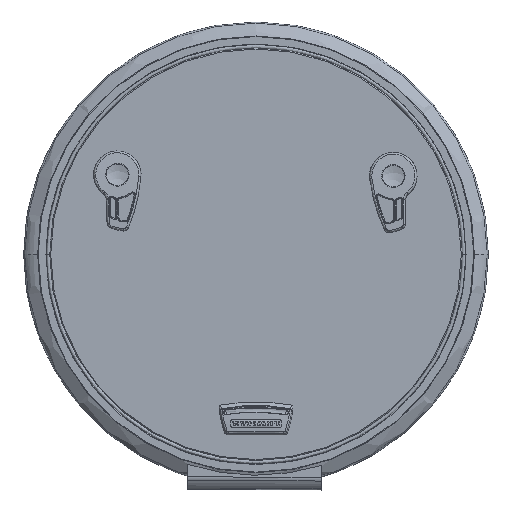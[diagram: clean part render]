
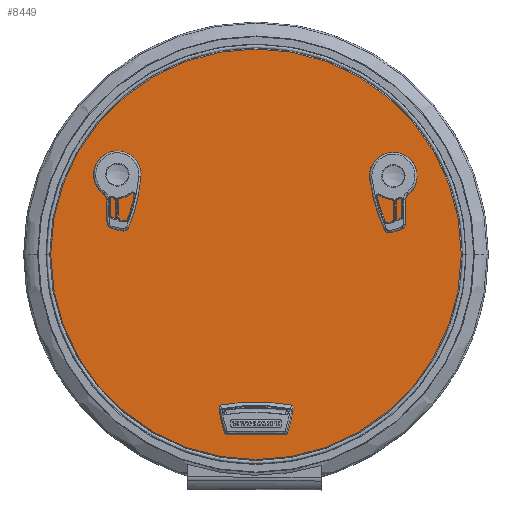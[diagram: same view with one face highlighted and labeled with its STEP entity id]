
A CAD part, top view. The second image highlights one B-rep face of the part: STEP entity #8449.
In plain terms, the highlighted planar face has unit normal (0, 0, 1).
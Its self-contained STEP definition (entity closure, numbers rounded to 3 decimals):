
#7936=CARTESIAN_POINT('',(0.,0.,8.));
#7937=DIRECTION('',(0.,0.,-1.));
#7938=DIRECTION('',(1.,0.,0.));
#7939=AXIS2_PLACEMENT_3D('',#7936,#7937,#7938);
#7941=CARTESIAN_POINT('',(0.,0.,8.));
#7942=DIRECTION('',(0.,0.,-1.));
#7943=DIRECTION('',(-1.,0.,0.));
#7944=AXIS2_PLACEMENT_3D('',#7941,#7942,#7943);
#7946=CARTESIAN_POINT('',(21.55,-177.5,8.));
#7947=DIRECTION('',(0.,0.,1.));
#7948=DIRECTION('',(0.,-1.,0.));
#7949=AXIS2_PLACEMENT_3D('',#7946,#7947,#7948);
#7951=DIRECTION('',(-1.,0.,0.));
#7952=VECTOR('',#7951,43.1);
#7953=CARTESIAN_POINT('',(21.55,-172.,8.));
#7954=LINE('',#7953,#7952);
#7955=CARTESIAN_POINT('',(-21.55,-177.5,8.));
#7956=DIRECTION('',(0.,0.,1.));
#7957=DIRECTION('',(0.,1.,0.));
#7958=AXIS2_PLACEMENT_3D('',#7955,#7956,#7957);
#7960=DIRECTION('',(1.,0.,0.));
#7961=VECTOR('',#7960,43.1);
#7962=CARTESIAN_POINT('',(-21.55,-183.,8.));
#7963=LINE('',#7962,#7961);
#7964=DIRECTION('',(-0.866,0.5,0.));
#7965=VECTOR('',#7964,5.2);
#7966=CARTESIAN_POINT('',(141.395,73.203,8.));
#7967=LINE('',#7966,#7965);
#7968=CARTESIAN_POINT('',(143.895,77.533,8.));
#7969=DIRECTION('',(0.,0.,-1.));
#7970=DIRECTION('',(0.866,-0.5,0.));
#7971=AXIS2_PLACEMENT_3D('',#7968,#7969,#7970);
#7973=DIRECTION('',(-0.5,-0.866,0.));
#7974=VECTOR('',#7973,10.2);
#7975=CARTESIAN_POINT('',(153.325,83.867,8.));
#7976=LINE('',#7975,#7974);
#7977=CARTESIAN_POINT('',(148.995,86.367,8.));
#7978=DIRECTION('',(0.,0.,-1.));
#7979=DIRECTION('',(0.5,0.866,0.));
#7980=AXIS2_PLACEMENT_3D('',#7977,#7978,#7979);
#7982=DIRECTION('',(0.866,-0.5,0.));
#7983=VECTOR('',#7982,5.2);
#7984=CARTESIAN_POINT('',(146.992,93.297,8.));
#7985=LINE('',#7984,#7983);
#7986=CARTESIAN_POINT('',(144.492,88.967,8.));
#7987=DIRECTION('',(0.,0.,-1.));
#7988=DIRECTION('',(-0.866,0.5,0.));
#7989=AXIS2_PLACEMENT_3D('',#7986,#7987,#7988);
#7991=DIRECTION('',(0.5,0.866,0.));
#7992=VECTOR('',#7991,10.2);
#7993=CARTESIAN_POINT('',(135.061,82.633,8.));
#7994=LINE('',#7993,#7992);
#7995=CARTESIAN_POINT('',(139.392,80.133,8.));
#7996=DIRECTION('',(0.,0.,-1.));
#7997=DIRECTION('',(-0.5,-0.866,0.));
#7998=AXIS2_PLACEMENT_3D('',#7995,#7996,#7997);
#8000=CARTESIAN_POINT('',(-143.895,77.533,8.));
#8001=DIRECTION('',(0.,0.,1.));
#8002=DIRECTION('',(-0.866,-0.5,0.));
#8003=AXIS2_PLACEMENT_3D('',#8000,#8001,#8002);
#8005=DIRECTION('',(0.866,0.5,0.));
#8006=VECTOR('',#8005,5.2);
#8007=CARTESIAN_POINT('',(-141.395,73.203,8.));
#8008=LINE('',#8007,#8006);
#8009=CARTESIAN_POINT('',(-139.392,80.133,8.));
#8010=DIRECTION('',(0.,0.,1.));
#8011=DIRECTION('',(0.5,-0.866,0.));
#8012=AXIS2_PLACEMENT_3D('',#8009,#8010,#8011);
#8014=DIRECTION('',(-0.5,0.866,0.));
#8015=VECTOR('',#8014,10.2);
#8016=CARTESIAN_POINT('',(-135.061,82.633,8.));
#8017=LINE('',#8016,#8015);
#8018=CARTESIAN_POINT('',(-144.492,88.967,8.));
#8019=DIRECTION('',(0.,0.,1.));
#8020=DIRECTION('',(0.866,0.5,0.));
#8021=AXIS2_PLACEMENT_3D('',#8018,#8019,#8020);
#8023=DIRECTION('',(-0.866,-0.5,0.));
#8024=VECTOR('',#8023,5.2);
#8025=CARTESIAN_POINT('',(-146.992,93.297,8.));
#8026=LINE('',#8025,#8024);
#8027=CARTESIAN_POINT('',(-148.995,86.367,8.));
#8028=DIRECTION('',(0.,0.,1.));
#8029=DIRECTION('',(-0.5,0.866,0.));
#8030=AXIS2_PLACEMENT_3D('',#8027,#8028,#8029);
#8032=DIRECTION('',(0.5,-0.866,0.));
#8033=VECTOR('',#8032,10.2);
#8034=CARTESIAN_POINT('',(-153.325,83.867,8.));
#8035=LINE('',#8034,#8033);
#8140=CARTESIAN_POINT('',(216.5,0.,8.));
#8141=CARTESIAN_POINT('',(-216.5,0.,8.));
#8142=VERTEX_POINT('',#8140);
#8143=VERTEX_POINT('',#8141);
#8156=CARTESIAN_POINT('',(21.55,-183.,8.));
#8157=CARTESIAN_POINT('',(21.55,-172.,8.));
#8158=VERTEX_POINT('',#8156);
#8159=VERTEX_POINT('',#8157);
#8160=CARTESIAN_POINT('',(-21.55,-172.,8.));
#8161=VERTEX_POINT('',#8160);
#8162=CARTESIAN_POINT('',(-21.55,-183.,8.));
#8163=VERTEX_POINT('',#8162);
#8184=CARTESIAN_POINT('',(141.395,73.203,8.));
#8185=CARTESIAN_POINT('',(136.892,75.803,8.));
#8186=VERTEX_POINT('',#8184);
#8187=VERTEX_POINT('',#8185);
#8188=CARTESIAN_POINT('',(135.061,82.633,8.));
#8189=CARTESIAN_POINT('',(140.161,91.467,8.));
#8190=VERTEX_POINT('',#8188);
#8191=VERTEX_POINT('',#8189);
#8192=CARTESIAN_POINT('',(146.992,93.297,8.));
#8193=CARTESIAN_POINT('',(151.495,90.697,8.));
#8194=VERTEX_POINT('',#8192);
#8195=VERTEX_POINT('',#8193);
#8196=CARTESIAN_POINT('',(153.325,83.867,8.));
#8197=CARTESIAN_POINT('',(148.225,75.033,8.));
#8198=VERTEX_POINT('',#8196);
#8199=VERTEX_POINT('',#8197);
#8216=CARTESIAN_POINT('',(-148.225,75.033,8.));
#8217=CARTESIAN_POINT('',(-141.395,73.203,8.));
#8218=VERTEX_POINT('',#8216);
#8219=VERTEX_POINT('',#8217);
#8220=CARTESIAN_POINT('',(-136.892,75.803,8.));
#8221=VERTEX_POINT('',#8220);
#8222=CARTESIAN_POINT('',(-135.061,82.633,8.));
#8223=VERTEX_POINT('',#8222);
#8224=CARTESIAN_POINT('',(-140.161,91.467,8.));
#8225=VERTEX_POINT('',#8224);
#8226=CARTESIAN_POINT('',(-146.992,93.297,8.));
#8227=VERTEX_POINT('',#8226);
#8228=CARTESIAN_POINT('',(-151.495,90.697,8.));
#8229=VERTEX_POINT('',#8228);
#8230=CARTESIAN_POINT('',(-153.325,83.867,8.));
#8231=VERTEX_POINT('',#8230);
#8393=CARTESIAN_POINT('',(0.,0.,8.));
#8394=DIRECTION('',(0.,0.,1.));
#8395=DIRECTION('',(-1.,0.,0.));
#8396=AXIS2_PLACEMENT_3D('',#8393,#8394,#8395);
#8397=PLANE('',#8396);
#8398=ORIENTED_EDGE('',*,*,#8383,.T.);
#8400=ORIENTED_EDGE('',*,*,#8399,.T.);
#8401=EDGE_LOOP('',(#8398,#8400));
#8402=FACE_OUTER_BOUND('',#8401,.F.);
#8404=ORIENTED_EDGE('',*,*,#8403,.T.);
#8406=ORIENTED_EDGE('',*,*,#8405,.T.);
#8408=ORIENTED_EDGE('',*,*,#8407,.T.);
#8410=ORIENTED_EDGE('',*,*,#8409,.T.);
#8411=EDGE_LOOP('',(#8404,#8406,#8408,#8410));
#8412=FACE_BOUND('',#8411,.F.);
#8414=ORIENTED_EDGE('',*,*,#8413,.F.);
#8416=ORIENTED_EDGE('',*,*,#8415,.F.);
#8418=ORIENTED_EDGE('',*,*,#8417,.F.);
#8420=ORIENTED_EDGE('',*,*,#8419,.F.);
#8422=ORIENTED_EDGE('',*,*,#8421,.F.);
#8424=ORIENTED_EDGE('',*,*,#8423,.F.);
#8426=ORIENTED_EDGE('',*,*,#8425,.F.);
#8428=ORIENTED_EDGE('',*,*,#8427,.F.);
#8429=EDGE_LOOP('',(#8414,#8416,#8418,#8420,#8422,#8424,#8426,#8428));
#8430=FACE_BOUND('',#8429,.F.);
#8432=ORIENTED_EDGE('',*,*,#8431,.T.);
#8434=ORIENTED_EDGE('',*,*,#8433,.T.);
#8436=ORIENTED_EDGE('',*,*,#8435,.T.);
#8438=ORIENTED_EDGE('',*,*,#8437,.T.);
#8440=ORIENTED_EDGE('',*,*,#8439,.T.);
#8442=ORIENTED_EDGE('',*,*,#8441,.T.);
#8444=ORIENTED_EDGE('',*,*,#8443,.T.);
#8446=ORIENTED_EDGE('',*,*,#8445,.T.);
#8447=EDGE_LOOP('',(#8432,#8434,#8436,#8438,#8440,#8442,#8444,#8446));
#8448=FACE_BOUND('',#8447,.F.);
#8449=ADVANCED_FACE('',(#8402,#8412,#8430,#8448),#8397,.T.);
#7940=CIRCLE('',#7939,216.5);
#7945=CIRCLE('',#7944,216.5);
#7950=CIRCLE('',#7949,5.5);
#7959=CIRCLE('',#7958,5.5);
#7972=CIRCLE('',#7971,5.);
#7981=CIRCLE('',#7980,5.);
#7990=CIRCLE('',#7989,5.);
#7999=CIRCLE('',#7998,5.);
#8004=CIRCLE('',#8003,5.);
#8013=CIRCLE('',#8012,5.);
#8022=CIRCLE('',#8021,5.);
#8031=CIRCLE('',#8030,5.);
#8383=EDGE_CURVE('',#8142,#8143,#7940,.T.);
#8399=EDGE_CURVE('',#8143,#8142,#7945,.T.);
#8403=EDGE_CURVE('',#8158,#8159,#7950,.T.);
#8405=EDGE_CURVE('',#8159,#8161,#7954,.T.);
#8407=EDGE_CURVE('',#8161,#8163,#7959,.T.);
#8409=EDGE_CURVE('',#8163,#8158,#7963,.T.);
#8413=EDGE_CURVE('',#8186,#8187,#7967,.T.);
#8415=EDGE_CURVE('',#8199,#8186,#7972,.T.);
#8417=EDGE_CURVE('',#8198,#8199,#7976,.T.);
#8419=EDGE_CURVE('',#8195,#8198,#7981,.T.);
#8421=EDGE_CURVE('',#8194,#8195,#7985,.T.);
#8423=EDGE_CURVE('',#8191,#8194,#7990,.T.);
#8425=EDGE_CURVE('',#8190,#8191,#7994,.T.);
#8427=EDGE_CURVE('',#8187,#8190,#7999,.T.);
#8431=EDGE_CURVE('',#8218,#8219,#8004,.T.);
#8433=EDGE_CURVE('',#8219,#8221,#8008,.T.);
#8435=EDGE_CURVE('',#8221,#8223,#8013,.T.);
#8437=EDGE_CURVE('',#8223,#8225,#8017,.T.);
#8439=EDGE_CURVE('',#8225,#8227,#8022,.T.);
#8441=EDGE_CURVE('',#8227,#8229,#8026,.T.);
#8443=EDGE_CURVE('',#8229,#8231,#8031,.T.);
#8445=EDGE_CURVE('',#8231,#8218,#8035,.T.);
